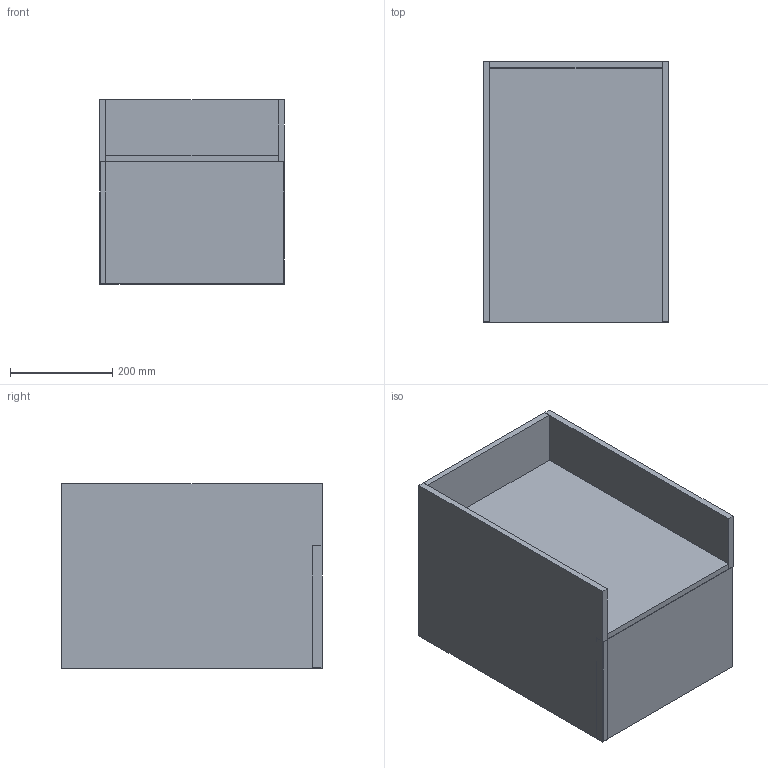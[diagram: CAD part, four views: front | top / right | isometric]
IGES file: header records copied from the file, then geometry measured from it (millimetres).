
Start section: Data from Parasolid IGES Translator 19.0.9, Copyright(c) 2006 Siemens PL M Software. All Rights Reserved.
Global section: file name: noorth-SI-H 36 D 51 W 37,2_9002.igs; native system: By Siemens PLM Incorporated; preprocessor: XPlus GENERIC/IGES 19.0.9; author: Noname; organization: Noname; date: 20200601.100108; units: metre
Bounding box: 360.01 x 508 x 360 mm (x, y, z)
Volume: 14270352.8 mm3; surface area: 2259158.1 mm2
Topology: 9 solids, 9 shells, 54 faces, 108 edges, 72 vertices
Faces by surface type: plane 54
